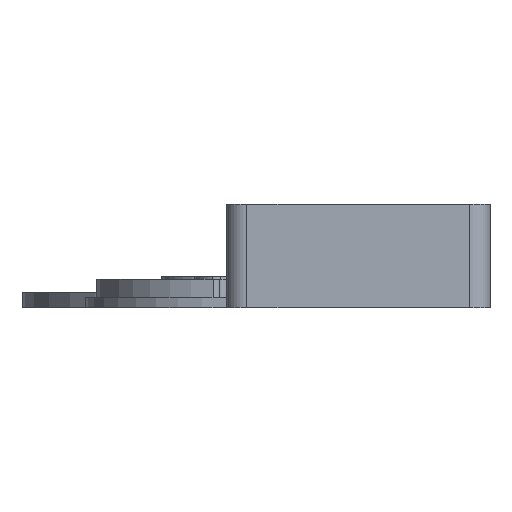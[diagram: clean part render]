
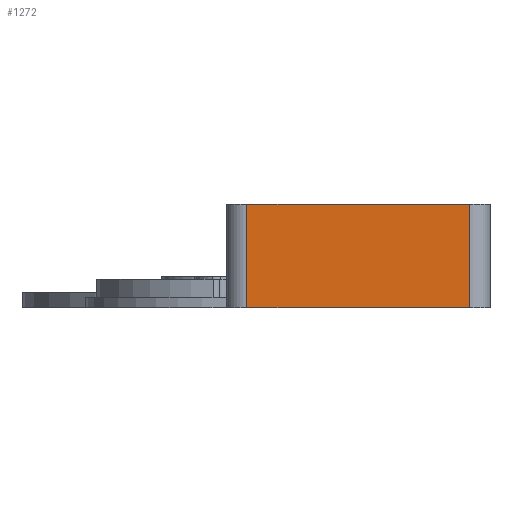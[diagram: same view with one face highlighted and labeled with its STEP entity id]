
A CAD part, front view. The second image highlights one B-rep face of the part: STEP entity #1272.
In plain terms, the highlighted planar face has unit normal (0, -1, 0).
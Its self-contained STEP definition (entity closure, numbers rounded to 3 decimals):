
#120=ORIENTED_EDGE('',*,*,#478,.T.);
#121=ORIENTED_EDGE('',*,*,#479,.T.);
#122=ORIENTED_EDGE('',*,*,#480,.F.);
#123=ORIENTED_EDGE('',*,*,#481,.T.);
#478=EDGE_CURVE('',#657,#658,#784,.T.);
#479=EDGE_CURVE('',#658,#659,#785,.F.);
#480=EDGE_CURVE('',#660,#659,#786,.T.);
#481=EDGE_CURVE('',#660,#657,#787,.T.);
#657=VERTEX_POINT('',#1984);
#658=VERTEX_POINT('',#1985);
#659=VERTEX_POINT('',#1987);
#660=VERTEX_POINT('',#1989);
#784=LINE('',#1983,#892);
#785=LINE('',#1986,#893);
#786=LINE('',#1988,#894);
#787=LINE('',#1990,#895);
#892=VECTOR('',#1570,1000.);
#893=VECTOR('',#1571,1000.);
#894=VECTOR('',#1572,1000.);
#895=VECTOR('',#1573,1000.);
#997=EDGE_LOOP('',(#120,#121,#122,#123));
#1111=FACE_BOUND('',#997,.T.);
#1225=PLANE('',#1410);
#1272=ADVANCED_FACE('',(#1111),#1225,.F.);
#1410=AXIS2_PLACEMENT_3D('',#1982,#1568,#1569);
#1568=DIRECTION('',(0.,1.,0.));
#1569=DIRECTION('',(-1.,0.,0.));
#1570=DIRECTION('',(1.,0.,0.));
#1571=DIRECTION('',(0.,0.,-1.));
#1572=DIRECTION('',(1.,0.,0.));
#1573=DIRECTION('',(0.,0.,-1.));
#1982=CARTESIAN_POINT('',(0.,0.,20.));
#1983=CARTESIAN_POINT('',(0.,0.,0.));
#1984=CARTESIAN_POINT('',(4.,0.,0.));
#1985=CARTESIAN_POINT('',(47.,0.,0.));
#1986=CARTESIAN_POINT('',(47.,0.,20.));
#1987=CARTESIAN_POINT('',(47.,0.,20.));
#1988=CARTESIAN_POINT('',(0.,0.,20.));
#1989=CARTESIAN_POINT('',(4.,0.,20.));
#1990=CARTESIAN_POINT('',(4.,0.,20.));
